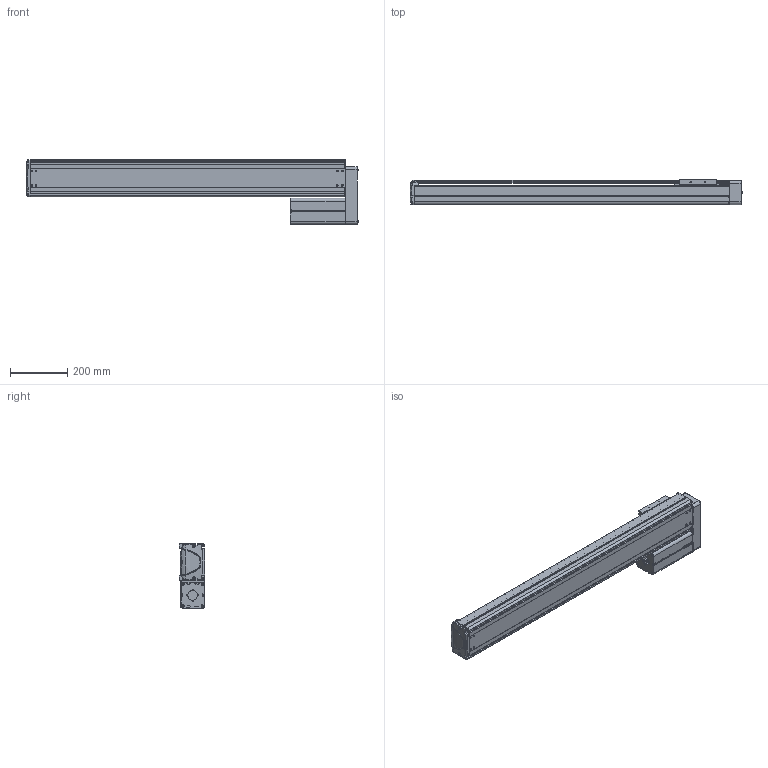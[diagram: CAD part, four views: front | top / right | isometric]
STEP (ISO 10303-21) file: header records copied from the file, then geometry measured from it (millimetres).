
FILE_DESCRIPTION((''),'2;1');
FILE_NAME('BE30E-UL-M_B-90_IGS_PRT','2017-06-17T',(' '),(''),'PRO/ENGINEER BY PARAMETRIC TECHNOLOGY CORPORATION, 2015030','PRO/ENGINEER BY PARAMETRIC TECHNOLOGY CORPORATION, 2015030','');
FILE_SCHEMA(('CONFIG_CONTROL_DESIGN'));
Length unit declared in the file: millimetre
Products named in the file (1): BE30E-UL-M_B-90_IGS_PRT
Bounding box: 1161.9 x 89.8 x 227 mm (x, y, z)
Volume: 3854317 mm3; surface area: 1663929.1 mm2
Topology: 2 solids, 125 shells, 2039 faces, 5491 edges, 3567 vertices
Faces by surface type: plane 992, cylinder 855, cone 103, torus 37, bspline 28, sphere 24
Entity records: 65998 total; most frequent: CARTESIAN_POINT 13968, DIRECTION 11001, ORIENTED_EDGE 10439, EDGE_CURVE 5453, AXIS2_PLACEMENT_3D 3884, VERTEX_POINT 3567, VECTOR 3233, LINE 3233
